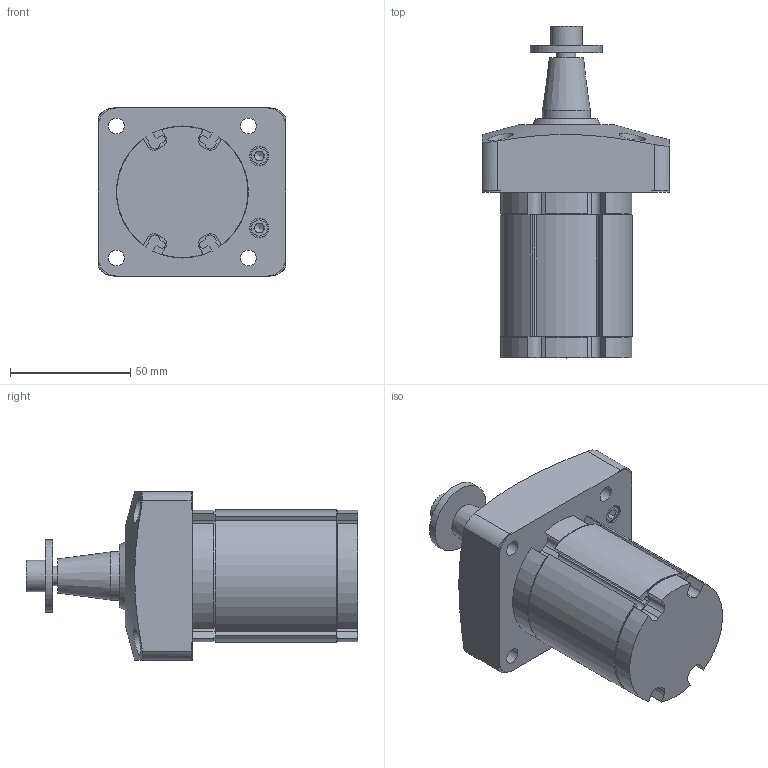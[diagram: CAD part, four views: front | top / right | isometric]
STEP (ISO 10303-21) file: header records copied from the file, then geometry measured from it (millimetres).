
FILE_DESCRIPTION( ( '' ), '1' );
FILE_NAME( 'W:/Catalogue/JSM/jsm32-17/jsm32-17.stp', '2008-05-26T02:55:10', ( '機械事業部産業機器グループ' ), ( '豊和工業株式会社' ), 'XStep 1.0', ' ', ' ' );
FILE_SCHEMA( ( 'CONFIG_CONTROL_DESIGN' ) );
Length unit declared in the file: millimetre
Products named in the file (7): Assem1; 1; 2; 3; 4; 5; 6
Bounding box: 78 x 138.2 x 70 mm (x, y, z)
Volume: 565453.1 mm3; surface area: 122939.6 mm2
Topology: 14 solids, 16 shells, 522 faces, 1310 edges, 860 vertices
Faces by surface type: plane 318, cylinder 162, cone 40, torus 2
Full cylindrical faces by diameter (mm): 6.3 x4, 6.6 x8, 8 x8, 8.3 x4, 8.4 x2, 11 x8, 13 x2, 20 x4, 20.15 x2, 22 x2, 27 x2, 30 x2, 32 x10
Entity records: 7816 total; most frequent: CARTESIAN_POINT 1745, DIRECTION 1227, ORIENTED_EDGE 1092, EDGE_CURVE 546, AXIS2_PLACEMENT_3D 441, VERTEX_POINT 388, LINE 345, VECTOR 345
